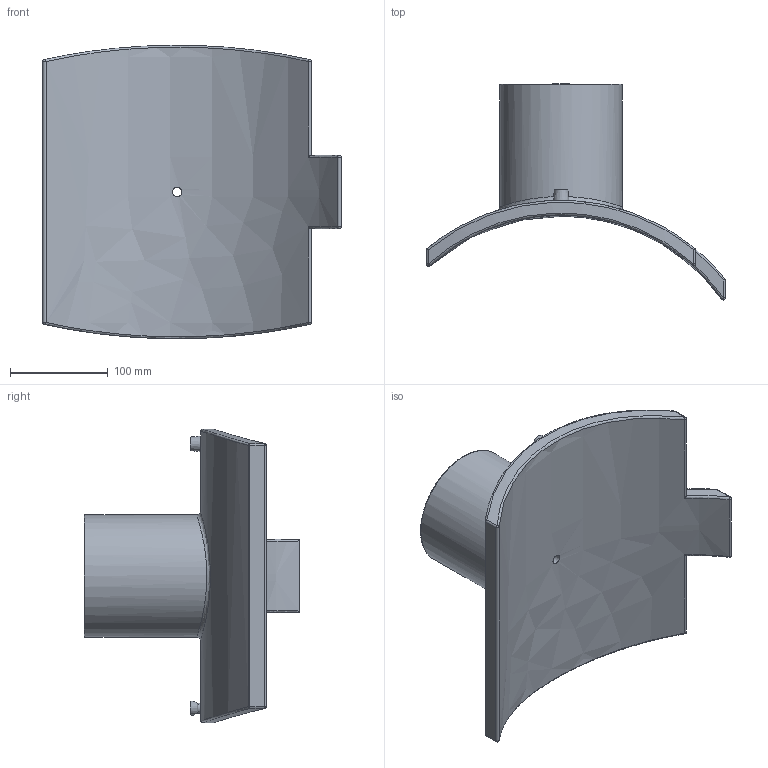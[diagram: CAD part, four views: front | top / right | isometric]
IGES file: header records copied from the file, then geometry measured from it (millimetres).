
Global section: file name: 495804400125T.ipt; native system: Autodesk Inventor 2015; preprocessor: unknown; author: KIM; date: 20171106.094341; units: millimetre
Bounding box: 305 x 220.54 x 299.94 mm (x, y, z)
Volume: 1903474.6 mm3; surface area: 293442.6 mm2
Topology: 2 solids, 2 shells, 66 faces, 132 edges, 78 vertices
Faces by surface type: cylinder 22, plane 14, sphere 12, revolution 11, bspline 5, cone 2
Full cylindrical faces by diameter (mm): 4 x2, 16 x1, 125 x1
